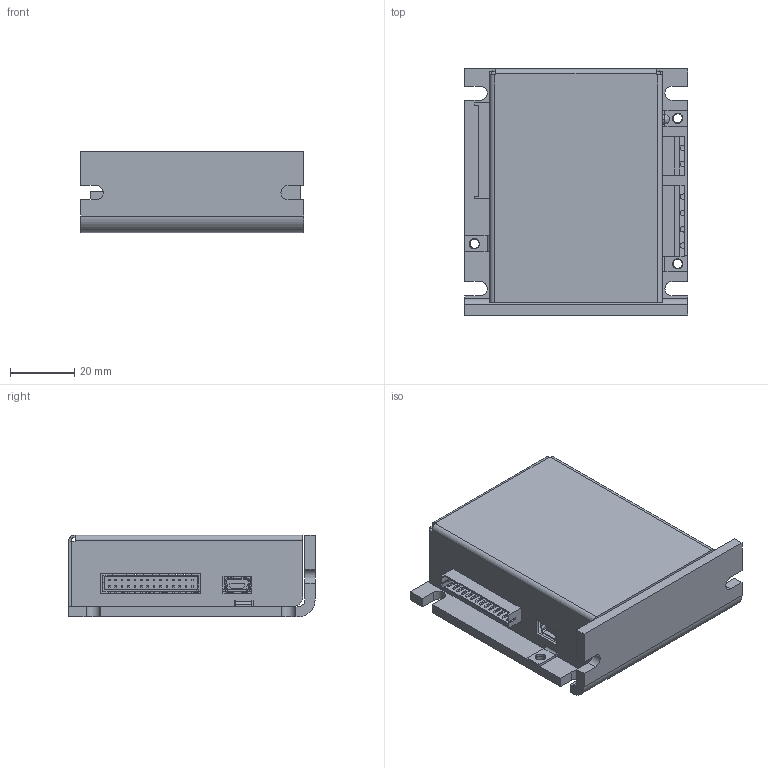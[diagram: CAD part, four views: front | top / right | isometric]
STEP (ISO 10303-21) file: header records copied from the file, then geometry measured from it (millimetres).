
FILE_DESCRIPTION (( 'STEP AP214' ), '1' );
FILE_NAME ('ACE-SDE-external.STEP', '2011-08-01T16:53:41', ( '' ), ( '' ), 'SwSTEP 2.0', 'SolidWorks 2011', '' );
FILE_SCHEMA (( 'AUTOMOTIVE_DESIGN' ));
Length unit declared in the file: inch
Products named in the file (8): SW3dPS-b28b-HRS-90D; SW3dPS-conn_usb_mini; SW3dPS-65-187, LED1x1,Y; mstba_2.5-hc-4-g-5.9; mstba_2.5-2-g; ACE-BASE-PLATE; ACE-SDE-COVER; ACE-SDE-external
Assembly tree (7 placements, depth 2):
  ACE-SDE-external
    SW3dPS-conn_usb_mini
    ACE-BASE-PLATE
    mstba_2.5-hc-4-g-5.9
    SW3dPS-b28b-HRS-90D
    ACE-SDE-COVER
    SW3dPS-65-187, LED1x1,Y
    mstba_2.5-2-g
Bounding box: 69.85 x 76.83 x 25.4 mm (x, y, z)
Volume: 27283 mm3; surface area: 35491.8 mm2
Topology: 5 solids, 13 shells, 1451 faces, 3770 edges, 2396 vertices
Faces by surface type: plane 1127, cylinder 308, bspline 10, cone 6
Entity records: 62818 total; most frequent: CARTESIAN_POINT 7832, ORIENTED_EDGE 7438, DIRECTION 7289, EDGE_CURVE 3747, LINE 3053, VECTOR 3053, VERTEX_POINT 2389, AXIS2_PLACEMENT_3D 2118
